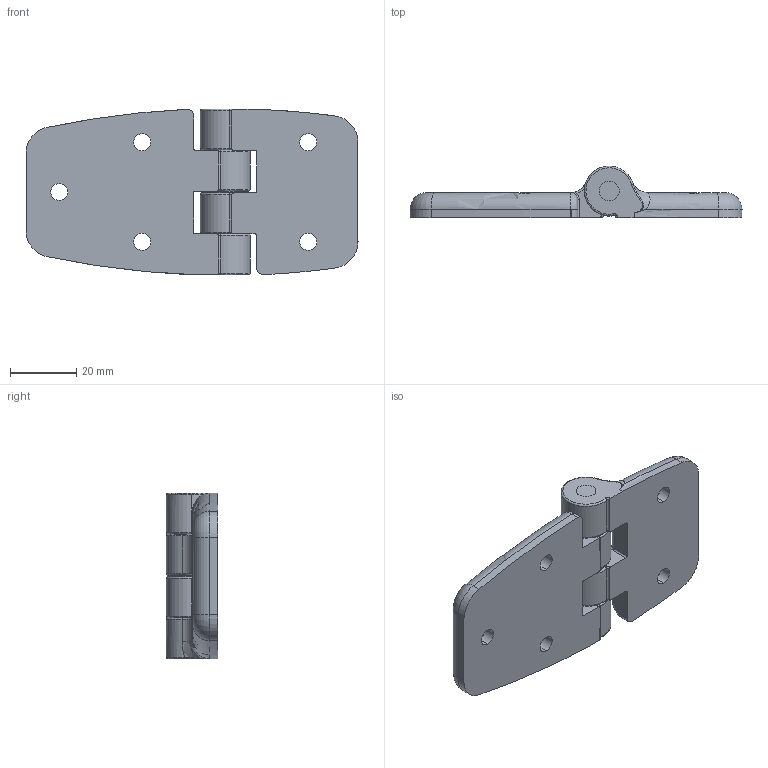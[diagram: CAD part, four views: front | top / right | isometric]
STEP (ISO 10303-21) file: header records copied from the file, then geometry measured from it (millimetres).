
FILE_DESCRIPTION (( 'STEP AP203' ), '1' );
FILE_NAME ('B64 KH-P21-5.STEP', '2012-11-20T06:06:32', ( 'KJ27' ), ( 'KONGJIN' ), 'SwSTEP 2.0', 'SolidWorks 2011', '' );
FILE_SCHEMA (( 'CONFIG_CONTROL_DESIGN' ));
Length unit declared in the file: millimetre
Products named in the file (4): 凜Щお; B64 KH-P21-5; B64 KH-P21-2 腮瘤2; B64 KH-P21-3
Assembly tree (3 placements, depth 2):
  B64 KH-P21-5
    凜Щお
    B64 KH-P21-2 腮瘤2
    B64 KH-P21-3
Bounding box: 100 x 15.5 x 50 mm (x, y, z)
Volume: 34390.2 mm3; surface area: 15241.1 mm2
Topology: 3 solids, 3 shells, 159 faces, 403 edges, 244 vertices
Faces by surface type: cylinder 76, torus 40, plane 29, bspline 14
Entity records: 6276 total; most frequent: CARTESIAN_POINT 1988, DIRECTION 887, ORIENTED_EDGE 794, EDGE_CURVE 397, AXIS2_PLACEMENT_3D 382, VERTEX_POINT 244, CIRCLE 231, EDGE_LOOP 177
